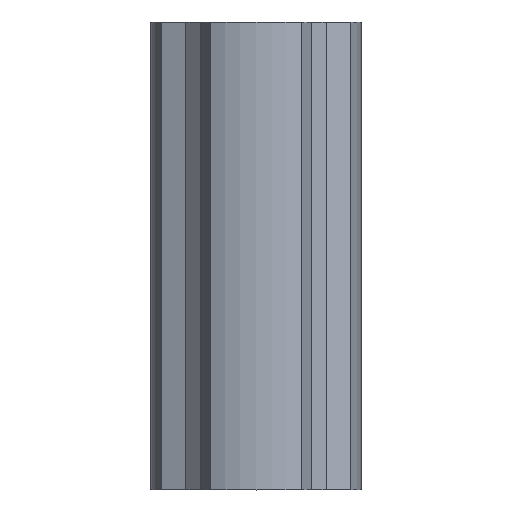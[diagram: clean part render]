
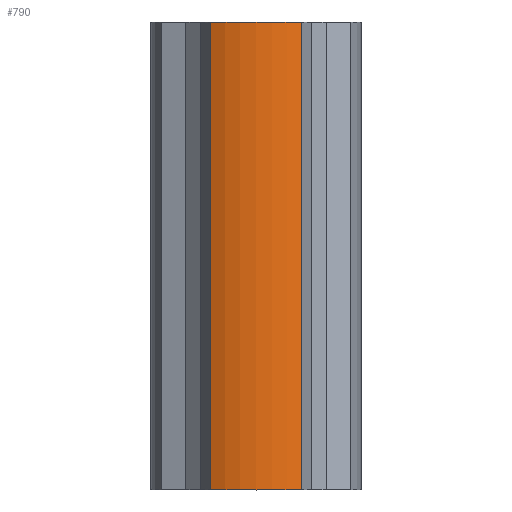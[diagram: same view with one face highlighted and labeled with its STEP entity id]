
A CAD part, top view. The second image highlights one B-rep face of the part: STEP entity #790.
In plain terms, the highlighted cylindrical face has radius 3.6 mm (diameter 7.2 mm), a partial arc.
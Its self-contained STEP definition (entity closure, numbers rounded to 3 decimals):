
#42=LINE('',#1178,#122);
#43=LINE('',#1182,#123);
#122=VECTOR('',#933,1000.);
#123=VECTOR('',#936,1000.);
#202=ORIENTED_EDGE('',*,*,#442,.T.);
#203=ORIENTED_EDGE('',*,*,#443,.F.);
#204=ORIENTED_EDGE('',*,*,#444,.F.);
#205=ORIENTED_EDGE('',*,*,#445,.T.);
#442=EDGE_CURVE('',#562,#563,#642,.T.);
#443=EDGE_CURVE('',#564,#563,#42,.T.);
#444=EDGE_CURVE('',#565,#564,#643,.T.);
#445=EDGE_CURVE('',#565,#562,#43,.T.);
#562=VERTEX_POINT('',#1176);
#563=VERTEX_POINT('',#1177);
#564=VERTEX_POINT('',#1179);
#565=VERTEX_POINT('',#1181);
#642=CIRCLE('',#846,3.6);
#643=CIRCLE('',#847,3.6);
#682=EDGE_LOOP('',(#202,#203,#204,#205));
#726=FACE_BOUND('',#682,.T.);
#770=CYLINDRICAL_SURFACE('',#845,3.6);
#790=ADVANCED_FACE('',(#726),#770,.T.);
#845=AXIS2_PLACEMENT_3D('',#1174,#929,#930);
#846=AXIS2_PLACEMENT_3D('',#1175,#931,#932);
#847=AXIS2_PLACEMENT_3D('',#1180,#934,#935);
#929=DIRECTION('',(0.,-1.,0.));
#930=DIRECTION('',(0.,0.,-1.));
#931=DIRECTION('',(0.,1.,0.));
#932=DIRECTION('',(1.,0.,0.));
#933=DIRECTION('',(0.,-1.,0.));
#934=DIRECTION('',(0.,1.,0.));
#935=DIRECTION('',(1.,0.,0.));
#936=DIRECTION('',(0.,-1.,0.));
#1174=CARTESIAN_POINT('',(0.,16.,0.));
#1175=CARTESIAN_POINT('',(0.,0.,0.));
#1176=CARTESIAN_POINT('',(-1.562,0.,3.243));
#1177=CARTESIAN_POINT('',(1.562,0.,3.243));
#1178=CARTESIAN_POINT('',(1.562,16.,3.243));
#1179=CARTESIAN_POINT('',(1.562,16.,3.243));
#1180=CARTESIAN_POINT('',(0.,16.,0.));
#1181=CARTESIAN_POINT('',(-1.562,16.,3.243));
#1182=CARTESIAN_POINT('',(-1.562,16.,3.243));
